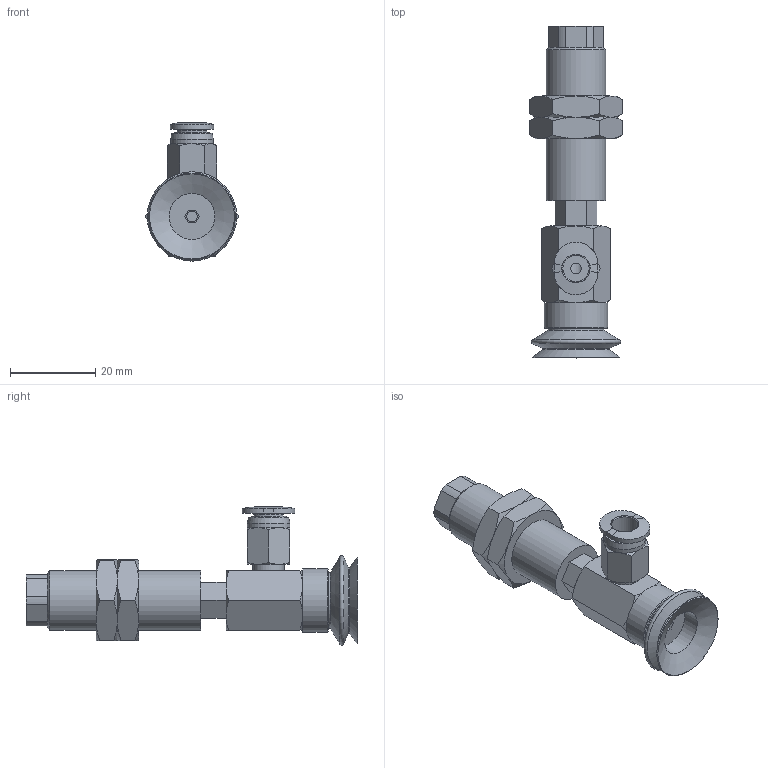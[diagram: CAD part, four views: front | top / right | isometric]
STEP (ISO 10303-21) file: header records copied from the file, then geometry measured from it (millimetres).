
FILE_DESCRIPTION(('STEP AP203'),'1');
FILE_NAME('-O.stp','2025-04-24T06:57:39',(' '),(' '),'Spatial InterOp 3D',' ',' ');
FILE_SCHEMA(('CONFIG_CONTROL_DESIGN'));
Length unit declared in the file: millimetre
Products named in the file (8): BNABPJYH-20-6-※-O; Adapter-20-NAPJ; CONNECTOR_H-20-6; NAPJH-20-6-NUT; NAPJTH-20-6-FBODY; NAPJTH-20-6-MBODY; BPJG-20-※; PC-C_06-M5
Assembly tree (8 placements, depth 2):
  BNABPJYH-20-6-※-O
    Adapter-20-NAPJ
    CONNECTOR_H-20-6
    NAPJH-20-6-NUT  x2
    NAPJTH-20-6-FBODY
    NAPJTH-20-6-MBODY
    BPJG-20-※
    PC-C_06-M5
Bounding box: 21.94 x 78 x 32.48 mm (x, y, z)
Volume: 12715.5 mm3; surface area: 11366.7 mm2
Topology: 7 solids, 10 shells, 204 faces, 442 edges, 271 vertices
Faces by surface type: plane 89, cone 70, cylinder 29, torus 9, bspline 4, revolution 3
Full cylindrical faces by diameter (mm): 2.5 x1, 3 x1, 4 x2, 4.134 x3, 4.6 x1, 5 x3, 7 x1, 7.4 x1, 8.2 x1, 10 x1, 10.8 x1, 11 x1, 13.188 x2, 14 x1, 15 x1
Entity records: 5494 total; most frequent: CARTESIAN_POINT 1475, DIRECTION 747, ORIENTED_EDGE 668, EDGE_CURVE 336, AXIS2_PLACEMENT_3D 308, EDGE_LOOP 258, VERTEX_POINT 234, FACE_OUTER_BOUND 150
